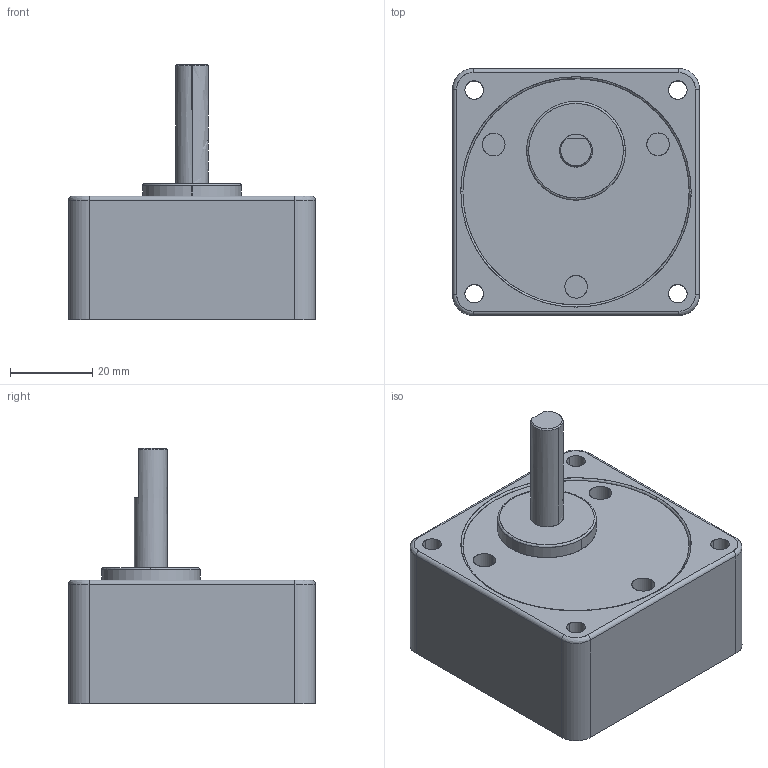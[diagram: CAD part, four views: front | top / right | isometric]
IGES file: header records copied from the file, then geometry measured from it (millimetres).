
Start section: SolidWorks IGES file using analytic representation for surfaces
Global section: file name: C:\Documents and Settings\user\ｹﾙﾅﾁ ﾈｭｸ饅(12-1) 6GBD｡潼H(3~18).IGS,1; native system: 5HSolidWorks 2007; preprocessor: SolidWorks 2007; author: user; date: 150825.152451; units: millimetre
Bounding box: 60 x 60 x 62 mm (x, y, z)
Surface area: 18322 mm2 (no closed solid volume)
Topology: 0 solids, 0 shells, 59 faces, 1179 edges, 1179 vertices
Faces by surface type: revolution 35, bspline 24
